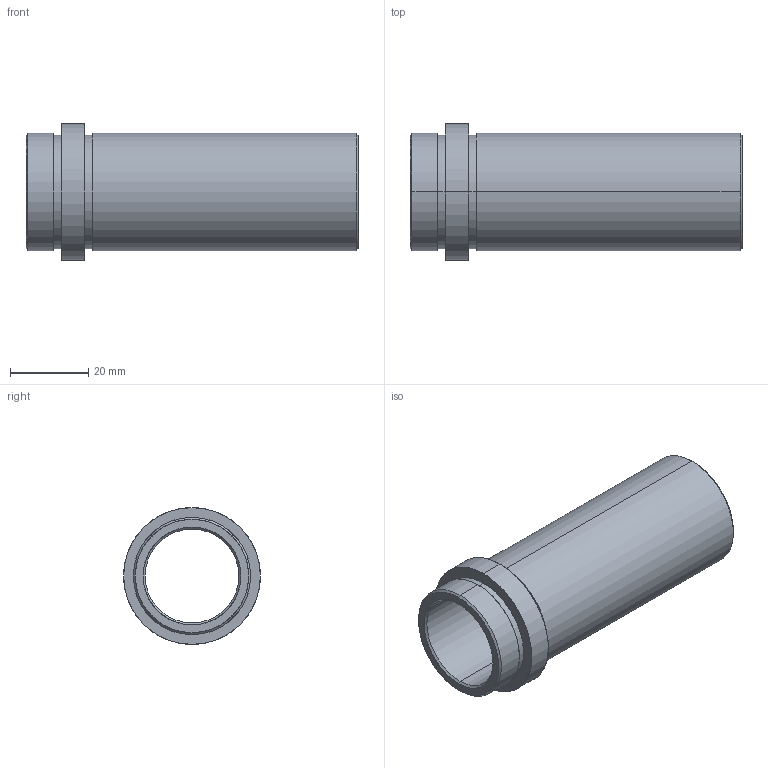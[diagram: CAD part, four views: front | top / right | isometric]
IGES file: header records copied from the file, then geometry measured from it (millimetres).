
Start section: SolidWorks IGES FILE using analytic representation for surfaces
Global section: file name: D:\zzzzz\Delta\D21\24\D21 - 24x76.IGS; native system: SolidWorks 2004 by SolidWorks Corporation; preprocessor: Version 5.3; author: Hkn; date: 080326.192801; units: millimetre
Bounding box: 85 x 35 x 35 mm (x, y, z)
Surface area: 15607 mm2 (no closed solid volume)
Topology: 0 solids, 0 shells, 26 faces, 784 edges, 784 vertices
Faces by surface type: revolution 20, bspline 6
